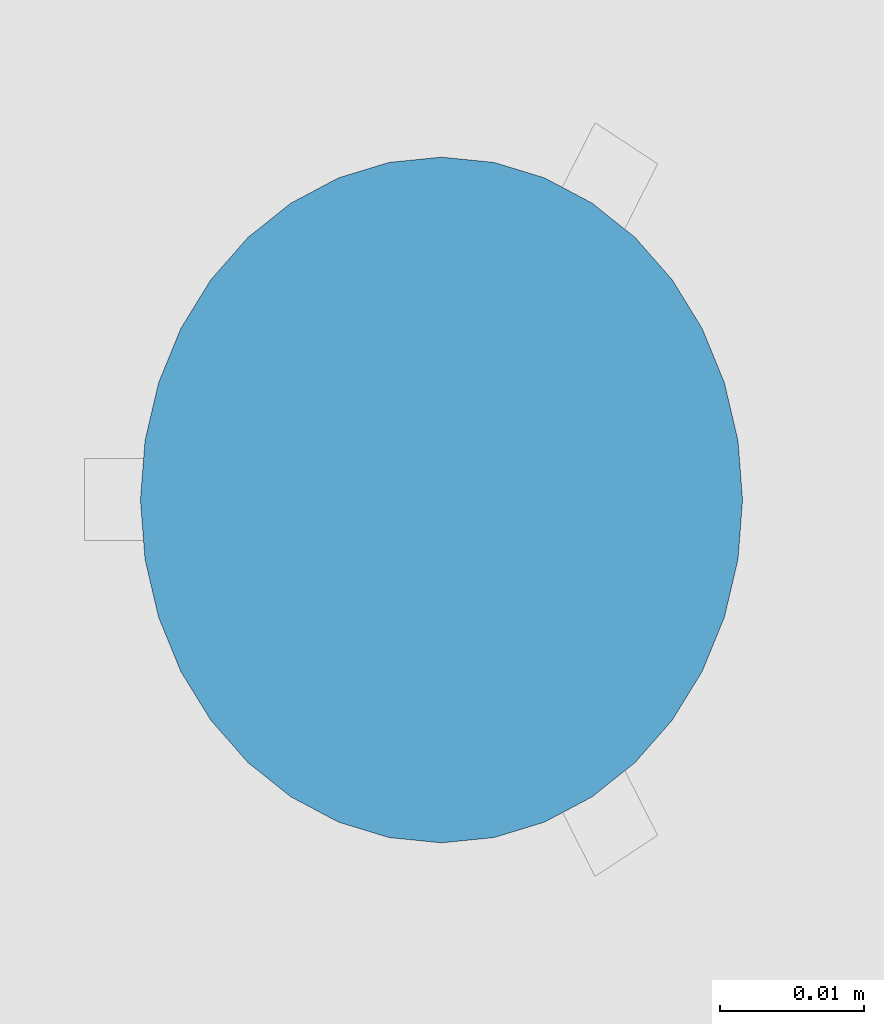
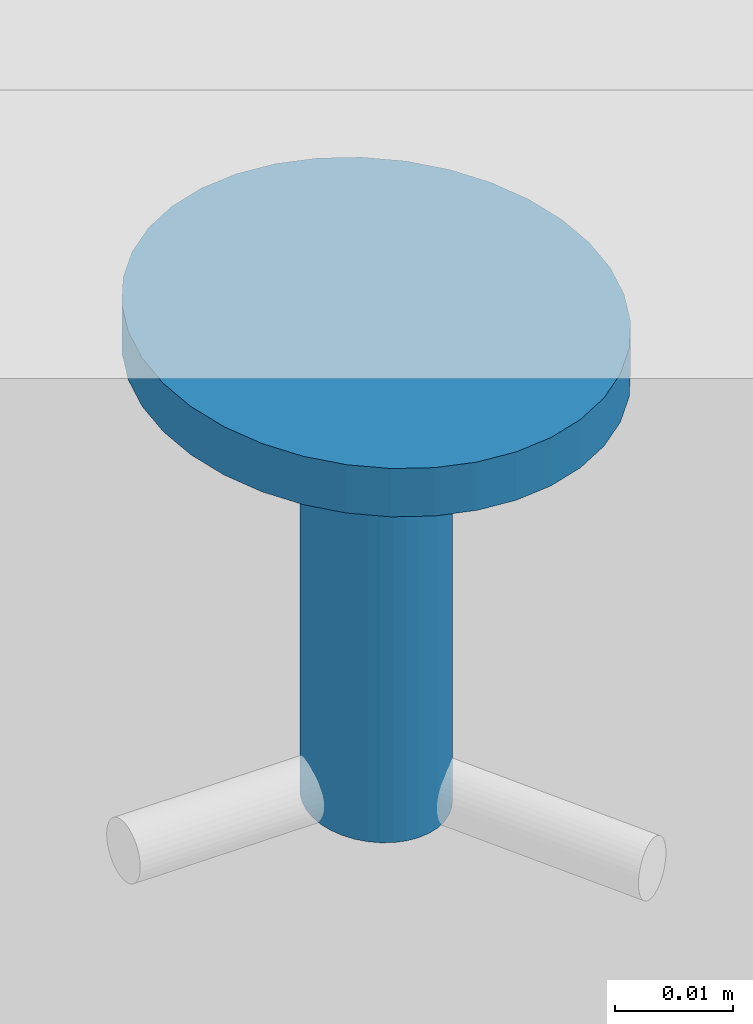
# One storey, part 34 of 788: 1 building element part, 1 element without a shape of its own.
"""IFC2X3 building model written with IfcOpenShell, lengths in millimetres."""

from ifc_helpers import new_model, entity, si_unit, converted_unit, derived_unit, money_unit, direction, frame, origin_with_axes, place, context, subcontext, project, spatial, faceted_brep, source, transform, mapped, material, type_object, element, aggregate, save


model = new_model("IFC2X3")

# Units and contexts
model_context = context("Model", 3, precision=0.01, world=origin_with_axes(), true_north=direction((0.0, 1.0)))
plan_context = context("Plan", 3, precision=0.01, world=origin_with_axes(), true_north=direction((0.0, 1.0)))
body_context = subcontext(model_context, "Body", "Model", "MODEL_VIEW")
ifc_project = project(units=[si_unit("LENGTHUNIT", "METRE", prefix="MILLI"), si_unit("AREAUNIT", "SQUARE_METRE"), si_unit("VOLUMEUNIT", "CUBIC_METRE"), converted_unit("PLANEANGLEUNIT", "DEGREE", entity("IfcPlaneAngleMeasure", 0.0174532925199), si_unit("PLANEANGLEUNIT", "RADIAN"), dimensions=[0, 0, 0, 0, 0, 0, 0]), money_unit("EUR"), converted_unit("TIMEUNIT", "Year", entity("IfcTimeMeasure", 31556926.0), si_unit("TIMEUNIT", "SECOND"), dimensions=[0, 0, 1, 0, 0, 0, 0]), si_unit("MASSUNIT", "GRAM", prefix="KILO"), si_unit("THERMODYNAMICTEMPERATUREUNIT", "DEGREE_CELSIUS"), si_unit("LUMINOUSINTENSITYUNIT", "LUMEN"), si_unit("ENERGYUNIT", "JOULE", prefix="MEGA"), derived_unit("THERMALCONDUCTANCEUNIT", [(si_unit("POWERUNIT", "WATT"), 1), (si_unit("LENGTHUNIT", "METRE"), -1), (si_unit("THERMODYNAMICTEMPERATUREUNIT", "KELVIN"), -1)]), derived_unit("SPECIFICHEATCAPACITYUNIT", [(si_unit("ENERGYUNIT", "JOULE"), 1), (si_unit("MASSUNIT", "GRAM", prefix="KILO"), -1), (si_unit("THERMODYNAMICTEMPERATUREUNIT", "KELVIN"), -1)]), derived_unit("MASSDENSITYUNIT", [(si_unit("MASSUNIT", "GRAM", prefix="KILO"), 1), (si_unit("VOLUMEUNIT", "CUBIC_METRE"), -1)])], contexts=[model_context, plan_context])

# Site, building, storey
site_placement = place(None, origin_with_axes())
site = spatial("IfcSite", under=ifc_project, at=site_placement, Name="Site", CompositionType="ELEMENT")
building_placement = place(site_placement, origin_with_axes())
building = spatial("IfcBuilding", under=site, at=building_placement, Name="Naam gebouw", CompositionType="ELEMENT")
storey_placement = place(building_placement, origin_with_axes())
storey = spatial("IfcBuildingStorey", under=building, at=storey_placement, Name="Begane grond", CompositionType="ELEMENT", Elevation=0.0)

# Proxy, building element part
building_element_proxy_type = type_object("IfcBuildingElementProxyType", Name="plafondhaak", PredefinedType="NOTDEFINED")
proxy_placement = place(storey_placement, frame((13701.5362747, 8488.52368188, 1211.0), z_axis=(0.0, 0.0, 1.0), x_axis=(-1.0, 0.0, 0.0)))
proxy = element("IfcBuildingElementProxy", 1, at=proxy_placement, inside=storey, type_object=building_element_proxy_type, Name="garderobehaak")
ifc_material = material(Name="_Dichte arcering")
shared_shape = source(origin_with_axes(), body_context, "Body", "Brep", [
    faceted_brep([(-17.5871200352, 3.81461944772, 50.0), (-17.5871200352, 3.81461944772, 45.0), (-14.2952839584, 5.56266277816, 45.0), (-14.2952839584, 5.56266277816, 50.0), (-21.0954971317, 2.74408618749, 50.0), (-21.0954971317, 2.74408618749, 45.0), (-5.13338153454, 17.9967404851, 45.0), (-6.66838990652, 14.2480494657, 45.0), (-8.75169938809, 10.8598540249, 45.0), (-11.3200096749, 7.93510276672, 45.0), (-24.7138149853, 2.38359060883, 45.0), (-28.3321328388, 2.74408618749, 45.0), (-31.8405099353, 3.81461944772, 45.0), (-35.1323460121, 5.56266277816, 45.0), (-38.1076202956, 7.93510276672, 45.0), (-40.6759305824, 10.8598540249, 45.0), (-42.759240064, 14.2480494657, 45.0), (-44.294248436, 17.9967404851, 45.0), (-45.2343152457, 21.9920250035, 45.0), (-45.550877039, 26.1125083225, 45.0), (-45.2343152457, 30.2329916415, 45.0), (-44.294248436, 34.2282761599, 45.0), (-42.759240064, 37.9769671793, 45.0), (-40.6759305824, 41.3651626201, 45.0), (-38.1076202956, 44.2899138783, 45.0), (-35.1323460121, 46.6623538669, 45.0), (-31.8405099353, 48.4103971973, 45.0), (-28.3321328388, 49.4809304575, 45.0), (-24.7138149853, 49.8414260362, 45.0), (-21.0954971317, 49.4809304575, 45.0), (-17.5871200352, 48.4103971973, 45.0), (-14.2952839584, 46.6623538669, 45.0), (-11.3200096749, 44.2899138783, 45.0), (-8.75169938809, 41.3651626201, 45.0), (-6.66838990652, 37.9769671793, 45.0), (-5.13338153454, 34.2282761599, 45.0), (-4.19331472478, 30.2329916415, 45.0), (-3.87675293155, 26.1125083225, 45.0), (-4.19331472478, 21.9920250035, 45.0), (-24.7138149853, 18.9938330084, 45.0), (-23.6283196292, 19.101981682, 45.0), (-22.5758065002, 19.4231416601, 45.0), (-21.5882556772, 19.9475546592, 45.0), (-20.6956733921, 20.6592866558, 45.0), (-19.9251803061, 21.5367120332, 45.0), (-19.3001874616, 22.5531706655, 45.0), (-18.83968495, 23.6777779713, 45.0), (-18.5576649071, 24.8763633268, 45.0), (-18.4626963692, 26.1125083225, 45.0), (-18.5576649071, 27.3486533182, 45.0), (-18.83968495, 28.5472386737, 45.0), (-19.3001874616, 29.6718459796, 45.0), (-19.9251803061, 30.6883046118, 45.0), (-20.6956733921, 31.5657299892, 45.0), (-21.5882556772, 32.2774619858, 45.0), (-22.5758065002, 32.8018749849, 45.0), (-23.6283196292, 33.123034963, 45.0), (-24.7138149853, 33.2311836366, 45.0), (-25.7993103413, 33.123034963, 45.0), (-26.8518234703, 32.8018749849, 45.0), (-27.8393742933, 32.2774619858, 45.0), (-28.7319565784, 31.5657299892, 45.0), (-29.5024496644, 30.6883046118, 45.0), (-30.1274425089, 29.6718459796, 45.0), (-30.5879450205, 28.5472386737, 45.0), (-30.8699650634, 27.3486533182, 45.0), (-30.9649336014, 26.1125083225, 45.0), (-30.8699650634, 24.8763633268, 45.0), (-30.5879450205, 23.6777779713, 45.0), (-30.1274425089, 22.5531706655, 45.0), (-29.5024496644, 21.5367120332, 45.0), (-28.7319565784, 20.6592866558, 45.0), (-27.8393742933, 19.9475546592, 45.0), (-26.8518234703, 19.4231416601, 45.0), (-25.7993103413, 19.101981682, 45.0), (-11.3200096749, 7.93510276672, 50.0), (-8.75169938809, 10.8598540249, 50.0), (-6.66838990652, 14.2480494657, 50.0), (-5.13338153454, 17.9967404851, 50.0), (-4.19331472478, 21.9920250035, 50.0), (-3.87675293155, 26.1125083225, 50.0), (-4.19331472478, 30.2329916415, 50.0), (-5.13338153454, 34.2282761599, 50.0), (-6.66838990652, 37.9769671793, 50.0), (-8.75169938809, 41.3651626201, 50.0), (-11.3200096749, 44.2899138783, 50.0), (-14.2952839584, 46.6623538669, 50.0), (-17.5871200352, 48.4103971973, 50.0), (-21.0954971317, 49.4809304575, 50.0), (-24.7138149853, 49.8414260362, 50.0), (-28.3321328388, 49.4809304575, 50.0), (-31.8405099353, 48.4103971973, 50.0), (-35.1323460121, 46.6623538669, 50.0), (-38.1076202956, 44.2899138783, 50.0), (-40.6759305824, 41.3651626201, 50.0), (-42.759240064, 37.9769671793, 50.0), (-44.294248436, 34.2282761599, 50.0), (-45.2343152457, 30.2329916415, 50.0), (-45.550877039, 26.1125083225, 50.0), (-45.2343152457, 21.9920250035, 50.0), (-44.294248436, 17.9967404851, 50.0), (-42.759240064, 14.2480494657, 50.0), (-40.6759305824, 10.8598540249, 50.0), (-38.1076202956, 7.93510276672, 50.0), (-35.1323460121, 5.56266277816, 50.0), (-31.8405099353, 3.81461944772, 50.0), (-28.3321328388, 2.74408618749, 50.0), (-24.7138149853, 2.38359060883, 50.0), (-24.7138149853, 18.9938330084, 0.0), (-23.6283196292, 19.101981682, 0.0), (-22.5758065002, 19.4231416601, 0.0), (-21.5882556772, 19.9475546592, 0.0), (-20.6956733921, 20.6592866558, 0.0), (-19.9251803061, 21.5367120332, 0.0), (-19.3001874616, 22.5531706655, 0.0), (-18.83968495, 23.6777779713, 0.0), (-18.5576649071, 24.8763633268, 0.0), (-18.4626963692, 26.1125083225, 0.0), (-18.5576649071, 27.3486533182, 0.0), (-18.83968495, 28.5472386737, 0.0), (-19.3001874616, 29.6718459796, 0.0), (-19.9251803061, 30.6883046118, 0.0), (-20.6956733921, 31.5657299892, 0.0), (-21.5882556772, 32.2774619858, 0.0), (-22.5758065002, 32.8018749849, 0.0), (-23.6283196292, 33.123034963, 0.0), (-24.7138149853, 33.2311836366, 0.0), (-25.7993103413, 33.123034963, 0.0), (-26.8518234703, 32.8018749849, 0.0), (-27.8393742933, 32.2774619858, 0.0), (-28.7319565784, 31.5657299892, 0.0), (-29.5024496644, 30.6883046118, 0.0), (-30.1274425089, 29.6718459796, 0.0), (-30.5879450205, 28.5472386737, 0.0), (-30.8699650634, 27.3486533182, 0.0), (-30.9649336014, 26.1125083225, 0.0), (-30.8699650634, 24.8763633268, 0.0), (-30.5879450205, 23.6777779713, 0.0), (-30.1274425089, 22.5531706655, 0.0), (-29.5024496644, 21.5367120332, 0.0), (-28.7319565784, 20.6592866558, 0.0), (-27.8393742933, 19.9475546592, 0.0), (-26.8518234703, 19.4231416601, 0.0), (-25.7993103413, 19.101981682, 0.0)], [[[0, 1, 2, 3]], [[0, 4, 5, 1]], [[6, 7, 8, 9, 2, 1, 5, 10, 11, 12, 13, 14, 15, 16, 17, 18, 19, 20, 21, 22, 23, 24, 25, 26, 27, 28, 29, 30, 31, 32, 33, 34, 35, 36, 37, 38], [39, 40, 41, 42, 43, 44, 45, 46, 47, 48, 49, 50, 51, 52, 53, 54, 55, 56, 57, 58, 59, 60, 61, 62, 63, 64, 65, 66, 67, 68, 69, 70, 71, 72, 73, 74]], [[3, 2, 9, 75]], [[3, 75, 76, 77, 78, 79, 80, 81, 82, 83, 84, 85, 86, 87, 88, 89, 90, 91, 92, 93, 94, 95, 96, 97, 98, 99, 100, 101, 102, 103, 104, 105, 106, 107, 4, 0]], [[107, 10, 5, 4]], [[77, 7, 6, 78]], [[76, 8, 7, 77]], [[9, 8, 76, 75]], [[106, 11, 10, 107]], [[105, 12, 11, 106]], [[104, 13, 12, 105]], [[103, 14, 13, 104]], [[103, 102, 15, 14]], [[102, 101, 16, 15]], [[100, 17, 16, 101]], [[99, 18, 17, 100]], [[98, 19, 18, 99]], [[97, 20, 19, 98]], [[96, 21, 20, 97]], [[95, 22, 21, 96]], [[94, 23, 22, 95]], [[93, 24, 23, 94]], [[92, 25, 24, 93]], [[91, 26, 25, 92]], [[90, 27, 26, 91]], [[89, 28, 27, 90]], [[88, 29, 28, 89]], [[30, 29, 88, 87]], [[31, 30, 87, 86]], [[32, 31, 86, 85]], [[33, 32, 85, 84]], [[83, 34, 33, 84]], [[82, 35, 34, 83]], [[81, 36, 35, 82]], [[80, 37, 36, 81]], [[79, 38, 37, 80]], [[78, 6, 38, 79]], [[40, 39, 108, 109]], [[41, 40, 109, 110]], [[110, 111, 42, 41]], [[43, 42, 111, 112]], [[112, 113, 44, 43]], [[113, 114, 45, 44]], [[114, 115, 46, 45]], [[47, 46, 115, 116]], [[116, 117, 48, 47]], [[117, 118, 49, 48]], [[118, 119, 50, 49]], [[119, 120, 51, 50]], [[120, 121, 52, 51]], [[53, 52, 121, 122]], [[122, 123, 54, 53]], [[123, 124, 55, 54]], [[124, 125, 56, 55]], [[125, 126, 57, 56]], [[58, 57, 126, 127]], [[59, 58, 127, 128]], [[60, 59, 128, 129]], [[129, 130, 61, 60]], [[130, 131, 62, 61]], [[131, 132, 63, 62]], [[64, 63, 132, 133]], [[65, 64, 133, 134]], [[66, 65, 134, 135]], [[135, 136, 67, 66]], [[68, 67, 136, 137]], [[137, 138, 69, 68]], [[70, 69, 138, 139]], [[71, 70, 139, 140]], [[72, 71, 140, 141]], [[73, 72, 141, 142]], [[74, 73, 142, 143]], [[39, 74, 143, 108]], [[109, 108, 143, 142, 141, 140, 139, 138, 137, 136, 135, 134, 133, 132, 131, 130, 129, 128, 127, 126, 125, 124, 123, 122, 121, 120, 119, 118, 117, 116, 115, 114, 113, 112, 111, 110]]]),
])
building_element_part_placement = place(proxy_placement, origin_with_axes())
building_element_part = element("IfcBuildingElementPart", 2, at=building_element_part_placement, material=ifc_material, Name="_Dichte arcering", context=body_context, shape_type="MappedRepresentation", body=[
    mapped(shared_shape, transform((0.0, 0.0, 0.0))),
])
aggregate(proxy, [building_element_part])

save(model, "model.ifc")
